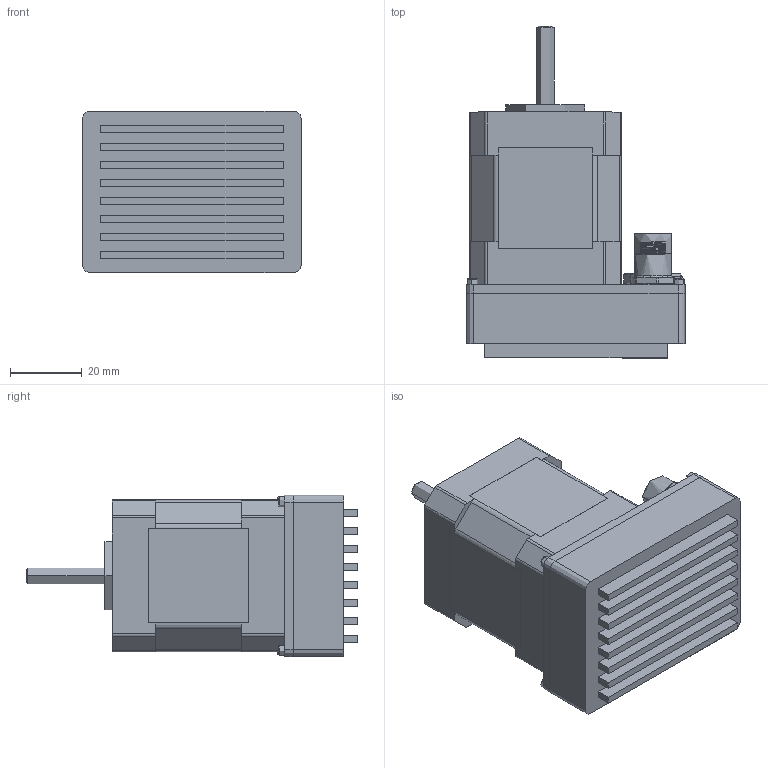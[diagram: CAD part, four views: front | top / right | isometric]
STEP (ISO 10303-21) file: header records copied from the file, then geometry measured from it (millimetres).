
FILE_DESCRIPTION (( 'STEP AP214' ), '1' );
FILE_NAME ('172s_noconn.STEP', '2017-11-24T08:44:24', ( 'a_neacsu' ), ( '' ), 'SwSTEP 2.0', 'SolidWorks 2017', '' );
FILE_SCHEMA (( 'AUTOMOTIVE_DESIGN' ));
Length unit declared in the file: millimetre
Products named in the file (40): bn7_screw_inbus_m1.6; P026.759.0014.12A.Baseplate.TM.CAT_D‚faut; bn7_screw_inbus_m1.6_6; MP042NB530.P5; Label_7.9mm_P036.121.E322; 172s_noconn; Label_11.5mm_SN; Label_iMOT172S TM-CAT; M8_Nut; M8.PhCont1524789; P026.610.0014.20C - Singleboard ECAT_TM-CAN-User; LED_3mm_bicolour_2mmpitch_ECAT; M12.PlasticInsert.PhCont1442081; P026.710.0014.20C - Singleboard ECAT; P026.759.0015.01A.Cover.CAT; P026.759.0015.01A.Cover.CAT_D‚faut; Nut; M12.MetalHousing.PhCont1551493; O-Ring; Cylinder; P026.759.0014.12A.Baseplate.TM.CAT
Assembly tree (27 placements, depth 3):
  MP042NB530.P5
  Label_7.9mm_P036.121.E322
  172s_noconn
    MP042NB530.P5
    bn7_screw_inbus_m1.6_6  x4
    P026.759.0014.12A.Baseplate.TM.CAT_D‚faut
    M12.MetalHousing.PhCont1551493
      Cylinder
      O-Ring
      Nut
    P026.759.0015.01A.Cover.CAT_D‚faut
    P026.610.0014.20C - Singleboard ECAT_TM-CAN-User
      P026.710.0014.20C - Singleboard ECAT
      M12.PlasticInsert.PhCont1442081
      LED_3mm_bicolour_2mmpitch_ECAT  x2
      M8.PhCont1524789  x2
    M8_Nut  x2
    Label_11.5mm_SN
    Label_7.9mm_P036.121.E322
    Label_iMOT172S TM-CAT
  Label_11.5mm_SN
  172s_noconn
    bn7_screw_inbus_m1.6
    bn7_screw_inbus_m1.6
    bn7_screw_inbus_m1.6
    bn7_screw_inbus_m1.6
Bounding box: 61.1 x 92.5 x 45.1 mm (x, y, z)
Volume: 108662.4 mm3; surface area: 46235.4 mm2
Topology: 21 solids, 21 shells, 3724 faces, 9482 edges, 6081 vertices
Faces by surface type: plane 1817, cylinder 1095, bspline 504, torus 114, cone 113, sphere 81
Entity records: 143901 total; most frequent: CARTESIAN_POINT 45798, ORIENTED_EDGE 15854, DIRECTION 14120, EDGE_CURVE 7927, VERTEX_POINT 5161, LINE 4880, VECTOR 4880, AXIS2_PLACEMENT_3D 4620
